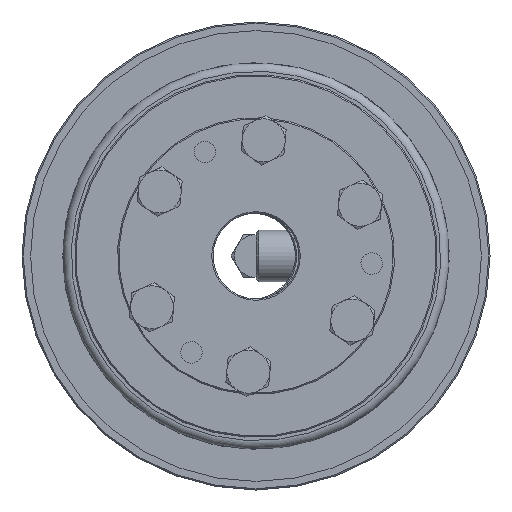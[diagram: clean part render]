
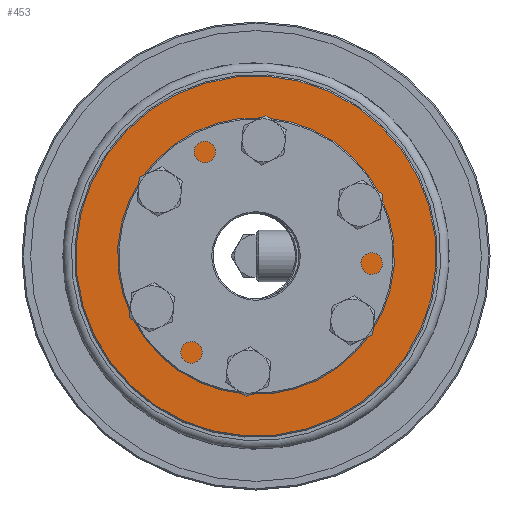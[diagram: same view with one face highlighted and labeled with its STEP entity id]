
A CAD part, left-side view. The second image highlights one B-rep face of the part: STEP entity #453.
In plain terms, the highlighted planar face has unit normal (-1, 0, 0) as drawn and (1, 0, 0) by its records, which use the part's own axes.
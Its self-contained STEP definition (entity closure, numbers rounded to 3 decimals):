
#453 = ADVANCED_FACE( 'NONE', ( #756, #757, #758, #759, #760, #761, #762, #763 ), #764, .F. );
#756 = FACE_OUTER_BOUND( '', #1396, .T. );
#757 = FACE_BOUND( '', #1397, .T. );
#758 = FACE_BOUND( '', #1398, .T. );
#759 = FACE_BOUND( '', #1399, .T. );
#760 = FACE_BOUND( '', #1400, .T. );
#761 = FACE_BOUND( '', #1401, .T. );
#762 = FACE_BOUND( '', #1402, .T. );
#763 = FACE_BOUND( '', #1403, .T. );
#764 = PLANE( '', #1404 );
#1396 = EDGE_LOOP( '', ( #2059 ) );
#1397 = EDGE_LOOP( '', ( #2060 ) );
#1398 = EDGE_LOOP( '', ( #2061 ) );
#1399 = EDGE_LOOP( '', ( #2062 ) );
#1400 = EDGE_LOOP( '', ( #2063 ) );
#1401 = EDGE_LOOP( '', ( #2064 ) );
#1402 = EDGE_LOOP( '', ( #2065 ) );
#1403 = EDGE_LOOP( '', ( #2066 ) );
#1404 = AXIS2_PLACEMENT_3D( '', #2067, #2068, #2069 );
#2059 = ORIENTED_EDGE( '', *, *, #3235, .T. );
#2060 = ORIENTED_EDGE( '', *, *, #3236, .T. );
#2061 = ORIENTED_EDGE( '', *, *, #3237, .F. );
#2062 = ORIENTED_EDGE( '', *, *, #3238, .F. );
#2063 = ORIENTED_EDGE( '', *, *, #3239, .F. );
#2064 = ORIENTED_EDGE( '', *, *, #3240, .F. );
#2065 = ORIENTED_EDGE( '', *, *, #3229, .F. );
#2066 = ORIENTED_EDGE( '', *, *, #3233, .F. );
#2067 = CARTESIAN_POINT( '', ( 20., 42.25, 0. ) );
#2068 = DIRECTION( '', ( -1., 0., 0. ) );
#2069 = DIRECTION( '', ( 0., 0., 1. ) );
#3229 = EDGE_CURVE( 'NONE', #3522, #3522, #3523, .T. );
#3233 = EDGE_CURVE( 'NONE', #3530, #3530, #3531, .T. );
#3235 = EDGE_CURVE( 'NONE', #3534, #3534, #3535, .T. );
#3236 = EDGE_CURVE( 'NONE', #3536, #3536, #3537, .T. );
#3237 = EDGE_CURVE( 'NONE', #3538, #3538, #3539, .T. );
#3238 = EDGE_CURVE( 'NONE', #3540, #3540, #3541, .T. );
#3239 = EDGE_CURVE( 'NONE', #3542, #3542, #3543, .T. );
#3240 = EDGE_CURVE( 'NONE', #3544, #3544, #3545, .T. );
#3522 = VERTEX_POINT( '', #4016 );
#3523 = CIRCLE( '', #4017, 3. );
#3530 = VERTEX_POINT( '', #4024 );
#3531 = CIRCLE( '', #4025, 3. );
#3534 = VERTEX_POINT( '', #4028 );
#3535 = CIRCLE( '', #4029, 41.95 );
#3536 = VERTEX_POINT( '', #4030 );
#3537 = CIRCLE( '', #4031, 23.558 );
#3538 = VERTEX_POINT( '', #4032 );
#3539 = CIRCLE( '', #4033, 3. );
#3540 = VERTEX_POINT( '', #4034 );
#3541 = CIRCLE( '', #4035, 3. );
#3542 = VERTEX_POINT( '', #4036 );
#3543 = CIRCLE( '', #4037, 3. );
#3544 = VERTEX_POINT( '', #4038 );
#3545 = CIRCLE( '', #4039, 3. );
#4016 = CARTESIAN_POINT( '', ( 20., -27., -3. ) );
#4017 = AXIS2_PLACEMENT_3D( '', #5114, #5115, #5116 );
#4024 = CARTESIAN_POINT( '', ( 20., 13.5, 20.383 ) );
#4025 = AXIS2_PLACEMENT_3D( '', #5126, #5127, #5128 );
#4028 = CARTESIAN_POINT( '', ( 20., 0., 41.95 ) );
#4029 = AXIS2_PLACEMENT_3D( '', #5132, #5133, #5134 );
#4030 = CARTESIAN_POINT( '', ( 20., 0., 23.558 ) );
#4031 = AXIS2_PLACEMENT_3D( '', #5135, #5136, #5137 );
#4032 = CARTESIAN_POINT( '', ( 20., -13.5, 20.383 ) );
#4033 = AXIS2_PLACEMENT_3D( '', #5138, #5139, #5140 );
#4034 = CARTESIAN_POINT( '', ( 20., 27., -3. ) );
#4035 = AXIS2_PLACEMENT_3D( '', #5141, #5142, #5143 );
#4036 = CARTESIAN_POINT( '', ( 20., 13.5, -26.383 ) );
#4037 = AXIS2_PLACEMENT_3D( '', #5144, #5145, #5146 );
#4038 = CARTESIAN_POINT( '', ( 20., -13.5, -26.383 ) );
#4039 = AXIS2_PLACEMENT_3D( '', #5147, #5148, #5149 );
#5114 = CARTESIAN_POINT( '', ( 20., -27., 0. ) );
#5115 = DIRECTION( '', ( 1., 0., 0. ) );
#5116 = DIRECTION( '', ( 0., 0., -1. ) );
#5126 = CARTESIAN_POINT( '', ( 20., 13.5, 23.383 ) );
#5127 = DIRECTION( '', ( 1., 0., 0. ) );
#5128 = DIRECTION( '', ( 0., 0., -1. ) );
#5132 = CARTESIAN_POINT( '', ( 20., 0., 0. ) );
#5133 = DIRECTION( '', ( 1., 0., 0. ) );
#5134 = DIRECTION( '', ( 0., 0., 1. ) );
#5135 = CARTESIAN_POINT( '', ( 20., 0., 0. ) );
#5136 = DIRECTION( '', ( -1., 0., 0. ) );
#5137 = DIRECTION( '', ( 0., 0., 1. ) );
#5138 = CARTESIAN_POINT( '', ( 20., -13.5, 23.383 ) );
#5139 = DIRECTION( '', ( 1., 0., 0. ) );
#5140 = DIRECTION( '', ( 0., 0., -1. ) );
#5141 = CARTESIAN_POINT( '', ( 20., 27., 0. ) );
#5142 = DIRECTION( '', ( 1., 0., 0. ) );
#5143 = DIRECTION( '', ( 0., 0., -1. ) );
#5144 = CARTESIAN_POINT( '', ( 20., 13.5, -23.383 ) );
#5145 = DIRECTION( '', ( 1., 0., 0. ) );
#5146 = DIRECTION( '', ( 0., 0., -1. ) );
#5147 = CARTESIAN_POINT( '', ( 20., -13.5, -23.383 ) );
#5148 = DIRECTION( '', ( 1., 0., 0. ) );
#5149 = DIRECTION( '', ( 0., 0., -1. ) );
